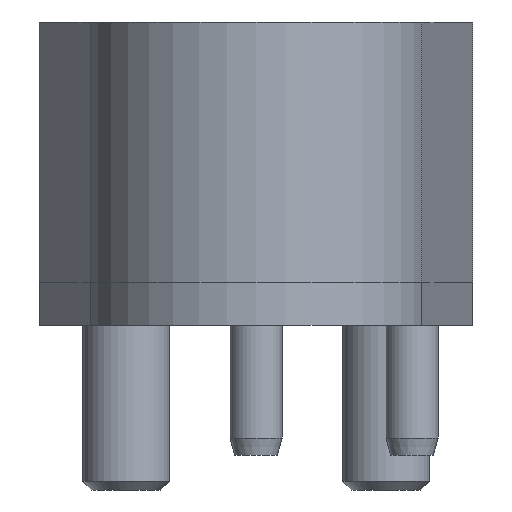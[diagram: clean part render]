
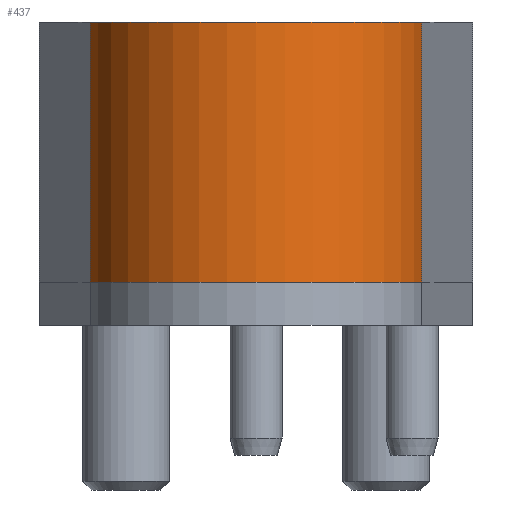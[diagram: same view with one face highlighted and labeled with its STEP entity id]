
A CAD part, left-side view. The second image highlights one B-rep face of the part: STEP entity #437.
In plain terms, the highlighted cylindrical face has radius 19.5 mm (diameter 39 mm), a partial arc.
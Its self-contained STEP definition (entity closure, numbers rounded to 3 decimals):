
#119=CYLINDRICAL_SURFACE('',#2648,19.5);
#273=CIRCLE('',#2646,19.5);
#274=CIRCLE('',#2647,19.5);
#437=ADVANCED_FACE('',(#657),#119,.T.);
#657=FACE_OUTER_BOUND('',#797,.T.);
#797=EDGE_LOOP('',(#1083,#1084,#1085,#1086));
#1083=ORIENTED_EDGE('',*,*,#1933,.T.);
#1084=ORIENTED_EDGE('',*,*,#1934,.F.);
#1085=ORIENTED_EDGE('',*,*,#1935,.F.);
#1086=ORIENTED_EDGE('',*,*,#1936,.T.);
#1687=VERTEX_POINT('',#3845);
#1688=VERTEX_POINT('',#3846);
#1689=VERTEX_POINT('',#3848);
#1690=VERTEX_POINT('',#3850);
#1933=EDGE_CURVE('',#1687,#1688,#2263,.T.);
#1934=EDGE_CURVE('',#1689,#1688,#273,.T.);
#1935=EDGE_CURVE('',#1690,#1689,#2264,.T.);
#1936=EDGE_CURVE('',#1690,#1687,#274,.T.);
#2263=LINE('',#3844,#2455);
#2264=LINE('',#3849,#2456);
#2455=VECTOR('',#3047,1.);
#2456=VECTOR('',#3050,1.);
#2646=AXIS2_PLACEMENT_3D('',#3847,#3048,#3049);
#2647=AXIS2_PLACEMENT_3D('',#3851,#3051,#3052);
#2648=AXIS2_PLACEMENT_3D('',#3852,#3053,#3054);
#3047=DIRECTION('',(0.,0.,1.));
#3048=DIRECTION('',(0.,0.,1.));
#3049=DIRECTION('',(0.,1.,0.));
#3050=DIRECTION('',(0.,0.,1.));
#3051=DIRECTION('',(0.,0.,1.));
#3052=DIRECTION('',(0.,1.,0.));
#3053=DIRECTION('',(0.,0.,1.));
#3054=DIRECTION('',(-1.,0.,0.));
#3844=CARTESIAN_POINT('',(-3.771,-19.132,5.));
#3845=CARTESIAN_POINT('',(-3.771,-19.132,5.));
#3846=CARTESIAN_POINT('',(-3.771,-19.132,35.));
#3847=CARTESIAN_POINT('',(0.,0.,35.));
#3848=CARTESIAN_POINT('',(-3.771,19.132,35.));
#3849=CARTESIAN_POINT('',(-3.771,19.132,5.));
#3850=CARTESIAN_POINT('',(-3.771,19.132,5.));
#3851=CARTESIAN_POINT('',(0.,0.,5.));
#3852=CARTESIAN_POINT('',(0.,0.,0.));
